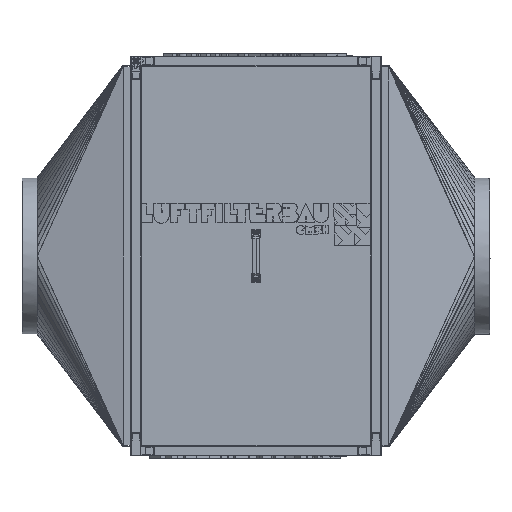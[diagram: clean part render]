
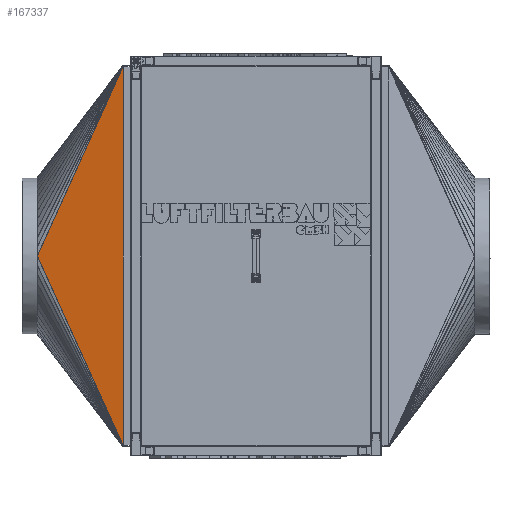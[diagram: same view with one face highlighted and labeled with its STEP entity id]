
A CAD part, front view. The second image highlights one B-rep face of the part: STEP entity #167337.
In plain terms, the highlighted planar face has unit normal (-0.196, -0.981, 0).
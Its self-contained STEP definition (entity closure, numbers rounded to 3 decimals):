
#23572=LINE('',#305918,#39792);
#23634=LINE('',#306061,#39854);
#23655=LINE('',#306119,#39875);
#23969=LINE('',#307030,#40189);
#39792=VECTOR('',#224376,10.);
#39854=VECTOR('',#224528,10.);
#39875=VECTOR('',#224595,10.);
#40189=VECTOR('',#225723,10.);
#49795=FACE_OUTER_BOUND('',#59596,.T.);
#59596=EDGE_LOOP('',(#144071,#144072,#144073,#144074));
#75581=VERTEX_POINT('',#305912);
#75582=VERTEX_POINT('',#305916);
#75617=VERTEX_POINT('',#306058);
#75618=VERTEX_POINT('',#306060);
#98035=EDGE_CURVE('',#75582,#75581,#23572,.T.);
#98106=EDGE_CURVE('',#75618,#75617,#23634,.T.);
#98136=EDGE_CURVE('',#75582,#75618,#23655,.T.);
#98596=EDGE_CURVE('',#75581,#75617,#23969,.T.);
#144071=ORIENTED_EDGE('',*,*,#98106,.T.);
#144072=ORIENTED_EDGE('',*,*,#98596,.F.);
#144073=ORIENTED_EDGE('',*,*,#98035,.F.);
#144074=ORIENTED_EDGE('',*,*,#98136,.T.);
#150220=PLANE('',#181498);
#167337=ADVANCED_FACE('',(#49795),#150220,.F.);
#181498=AXIS2_PLACEMENT_3D('',#307031,#225724,#225725);
#224376=DIRECTION('',(0.,0.,1.));
#224528=DIRECTION('',(0.,0.,1.));
#224595=DIRECTION('',(0.411,-0.082,-0.908));
#225723=DIRECTION('',(0.411,-0.082,0.908));
#225724=DIRECTION('center_axis',(0.196,0.981,0.));
#225725=DIRECTION('ref_axis',(-0.981,0.196,0.));
#305912=CARTESIAN_POINT('',(-700.551,-251.454,638.002));
#305916=CARTESIAN_POINT('',(-700.551,-251.454,637.998));
#305918=CARTESIAN_POINT('',(-700.551,-251.454,637.753));
#306058=CARTESIAN_POINT('',(-425.843,-306.413,1244.61));
#306060=CARTESIAN_POINT('',(-425.843,-306.413,31.39));
#306061=CARTESIAN_POINT('',(-425.843,-306.413,334.694));
#306119=CARTESIAN_POINT('',(-700.551,-251.454,637.998));
#307030=CARTESIAN_POINT('',(-700.551,-251.454,638.002));
#307031=CARTESIAN_POINT('Origin',(-700.551,-251.454,637.998));
